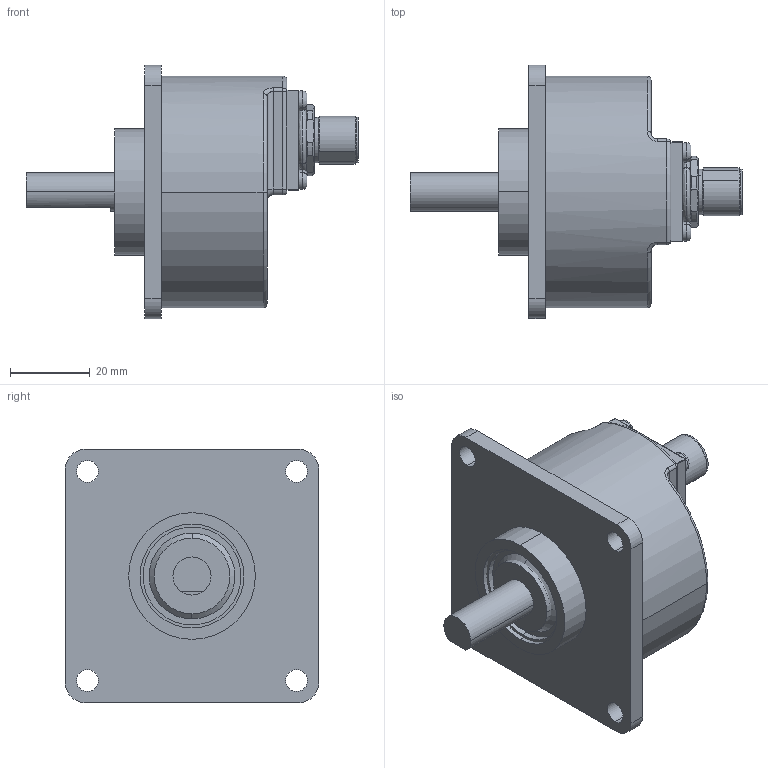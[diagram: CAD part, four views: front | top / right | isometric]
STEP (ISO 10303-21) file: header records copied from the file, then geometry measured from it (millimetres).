
FILE_DESCRIPTION (( 'STEP AP203' ), '1' );
FILE_NAME ('K58I.OXX.XXXXX.XS1Q52B.6XAC3.step', '2025-12-08T16:31:08', ( '' ), ( '' ), 'SwSTEP 2.0', 'SolidWorks 2021', '' );
FILE_SCHEMA (( 'CONFIG_CONTROL_DESIGN' ));
Length unit declared in the file: millimetre
Products named in the file (1): K58I.OXX.XXXXX.XS1Q52B.6XAC3
Bounding box: 83.22 x 63.5 x 63.5 mm (x, y, z)
Surface area: 31608.6 mm2 (no closed solid volume)
Topology: 0 solids, 11 shells, 323 faces, 771 edges, 493 vertices
Faces by surface type: cylinder 168, plane 96, bspline 26, cone 23, torus 8, sphere 2
Entity records: 11350 total; most frequent: CARTESIAN_POINT 3693, DIRECTION 1682, ORIENTED_EDGE 1526, EDGE_CURVE 771, AXIS2_PLACEMENT_3D 700, VERTEX_POINT 493, CIRCLE 402, EDGE_LOOP 366
